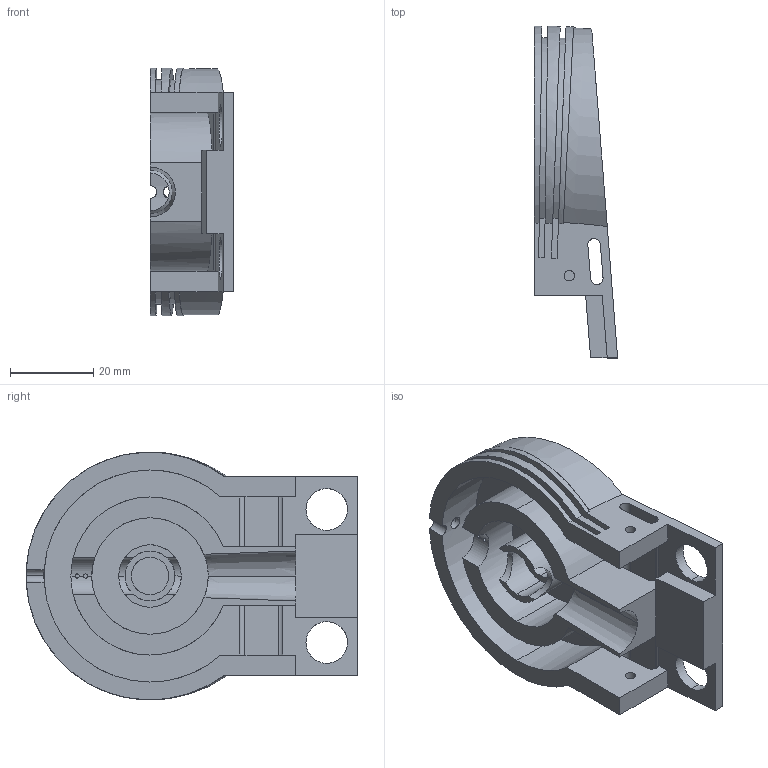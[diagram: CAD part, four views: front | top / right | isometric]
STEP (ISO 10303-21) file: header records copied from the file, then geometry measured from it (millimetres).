
FILE_DESCRIPTION(('STEP AP214'),'1');
FILE_NAME('C:/Users/mashimo/Documents/次世代エンジン/ボア６ｃｍ/TurboCAD/3D/tmp0.STEP','2025-07-11T09:13:28',(' '),(' '),'Spatial InterOp 3D',' ',' ');
FILE_SCHEMA(('automotive_design'));
Length unit declared in the file: millimetre
Products named in the file (1): 1
Bounding box: 20 x 79.79 x 59.58 mm (x, y, z)
Volume: 28347.5 mm3; surface area: 19409.2 mm2
Topology: 1 solids, 1 shells, 105 faces, 321 edges, 215 vertices
Faces by surface type: plane 49, cylinder 46, torus 8, cone 2
Entity records: 6105 total; most frequent: CARTESIAN_POINT 2308, ORIENTED_EDGE 642, DIRECTION 602, EDGE_CURVE 321, AXIS2_PLACEMENT_3D 220, VERTEX_POINT 215, LINE 162, VECTOR 162
